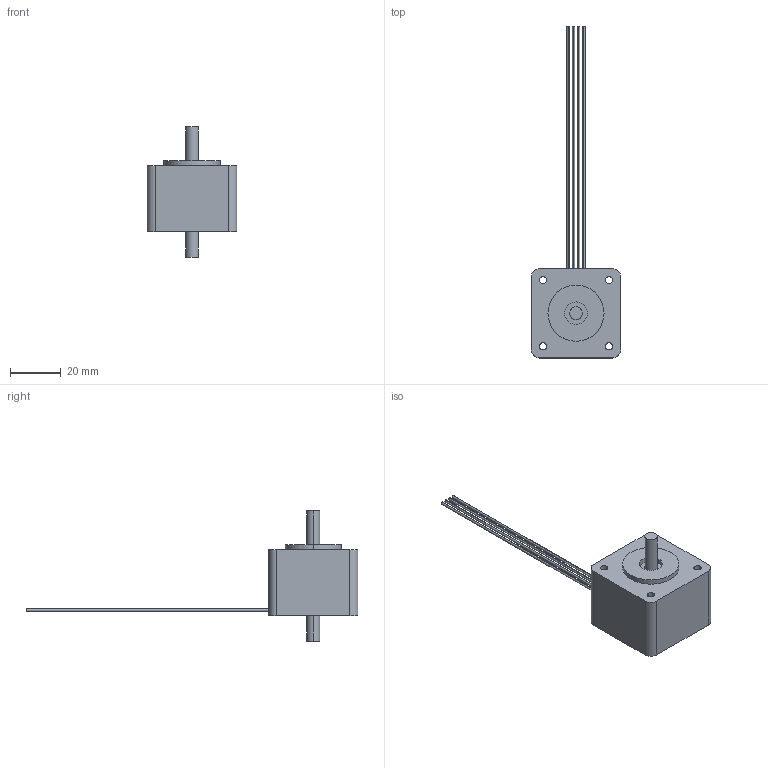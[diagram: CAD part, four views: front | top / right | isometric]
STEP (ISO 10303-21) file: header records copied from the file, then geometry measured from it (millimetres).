
FILE_DESCRIPTION((''),'2;1');
FILE_NAME('C:\Documents and Settings\rbadgerow\Desktop\webmodelmain\web step 3d\3518x\3518x d.stp','2005-05-10T06:24:38',('rbadgerow'),(''),'Autodesk Inventor 9','Autodesk Inventor 9','');
FILE_SCHEMA(('AUTOMOTIVE_DESIGN { 1 0 10303 214 1 1 1 1 }'));
Length unit declared in the file: inch
Products named in the file (1): 3518x d
Bounding box: 35.05 x 130.21 x 51.05 mm (x, y, z)
Volume: 32343 mm3; surface area: 8596.7 mm2
Topology: 2 solids, 2 shells, 46 faces, 102 edges, 68 vertices
Faces by surface type: cylinder 30, plane 16
Entity records: 1346 total; most frequent: DIRECTION 256, CARTESIAN_POINT 217, ORIENTED_EDGE 204, AXIS2_PLACEMENT_3D 107, EDGE_CURVE 102, VERTEX_POINT 68, EDGE_LOOP 62, CIRCLE 60
